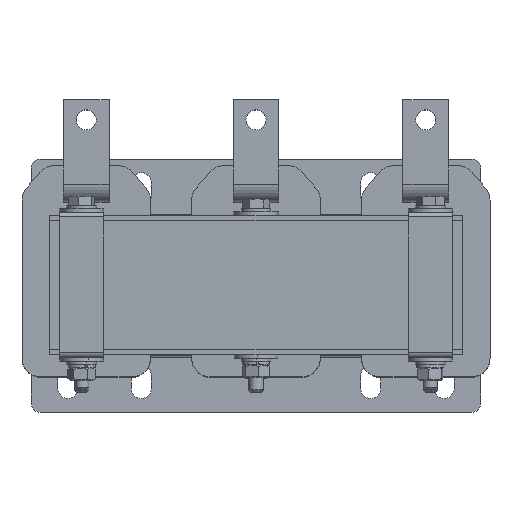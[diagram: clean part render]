
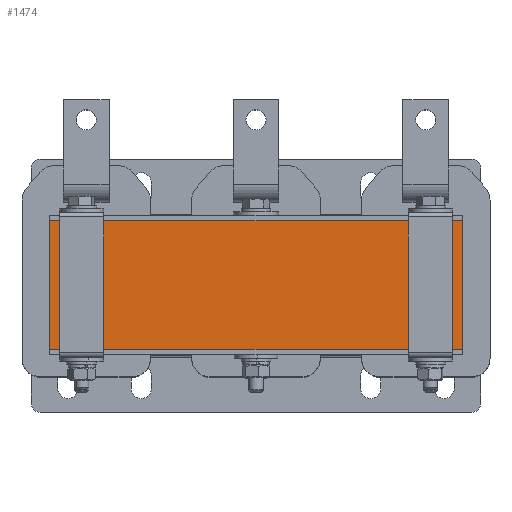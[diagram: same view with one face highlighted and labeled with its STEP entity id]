
A CAD part, top view. The second image highlights one B-rep face of the part: STEP entity #1474.
In plain terms, the highlighted planar face has unit normal (0, 0, 1).
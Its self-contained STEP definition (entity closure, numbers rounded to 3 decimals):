
#49 = VECTOR ( 'NONE', #9702, 1000. ) ;
#714 = CARTESIAN_POINT ( 'NONE',  ( 112.5, -35., 245. ) ) ;
#790 = ORIENTED_EDGE ( 'NONE', *, *, #9333, .T. ) ;
#1341 = LINE ( 'NONE', #5972, #5713 ) ;
#1364 = LINE ( 'NONE', #9724, #3151 ) ;
#1474 = ADVANCED_FACE ( 'NONE', ( #2604 ), #3424, .T. ) ;
#2383 = VERTEX_POINT ( 'NONE', #7679 ) ;
#2604 = FACE_OUTER_BOUND ( 'NONE', #8844, .T. ) ;
#2653 = VECTOR ( 'NONE', #6603, 1000. ) ;
#2886 = DIRECTION ( 'NONE',  ( 0., 1., 0. ) ) ;
#3151 = VECTOR ( 'NONE', #2886, 1000. ) ;
#3298 = VERTEX_POINT ( 'NONE', #8662 ) ;
#3299 = CARTESIAN_POINT ( 'NONE',  ( -112.5, -35., 245. ) ) ;
#3348 = LINE ( 'NONE', #3299, #2653 ) ;
#3421 = CARTESIAN_POINT ( 'NONE',  ( -112.5, -35., 245. ) ) ;
#3424 = PLANE ( 'NONE',  #8078 ) ;
#3505 = VERTEX_POINT ( 'NONE', #4353 ) ;
#3524 = LINE ( 'NONE', #3421, #49 ) ;
#4353 = CARTESIAN_POINT ( 'NONE',  ( -112.5, 35., 245. ) ) ;
#4898 = EDGE_CURVE ( 'NONE', #2383, #3505, #3348, .T. ) ;
#5028 = EDGE_CURVE ( 'NONE', #6714, #3298, #1364, .T. ) ;
#5303 = DIRECTION ( 'NONE',  ( 1., 0., 0. ) ) ;
#5713 = VECTOR ( 'NONE', #5303, 1000. ) ;
#5876 = DIRECTION ( 'NONE',  ( 1., 0., 0. ) ) ;
#5972 = CARTESIAN_POINT ( 'NONE',  ( -112.5, 35., 245. ) ) ;
#6518 = ORIENTED_EDGE ( 'NONE', *, *, #4898, .F. ) ;
#6529 = DIRECTION ( 'NONE',  ( 0., 0., 1. ) ) ;
#6603 = DIRECTION ( 'NONE',  ( 0., 1., 0. ) ) ;
#6632 = CARTESIAN_POINT ( 'NONE',  ( -112.5, -35., 245. ) ) ;
#6714 = VERTEX_POINT ( 'NONE', #714 ) ;
#7679 = CARTESIAN_POINT ( 'NONE',  ( -112.5, -35., 245. ) ) ;
#7827 = EDGE_CURVE ( 'NONE', #3505, #3298, #1341, .T. ) ;
#8078 = AXIS2_PLACEMENT_3D ( 'NONE', #6632, #6529, #5876 ) ;
#8227 = ORIENTED_EDGE ( 'NONE', *, *, #5028, .T. ) ;
#8662 = CARTESIAN_POINT ( 'NONE',  ( 112.5, 35., 245. ) ) ;
#8844 = EDGE_LOOP ( 'NONE', ( #8972, #6518, #790, #8227 ) ) ;
#8972 = ORIENTED_EDGE ( 'NONE', *, *, #7827, .F. ) ;
#9333 = EDGE_CURVE ( 'NONE', #2383, #6714, #3524, .T. ) ;
#9702 = DIRECTION ( 'NONE',  ( 1., 0., 0. ) ) ;
#9724 = CARTESIAN_POINT ( 'NONE',  ( 112.5, -35., 245. ) ) ;
